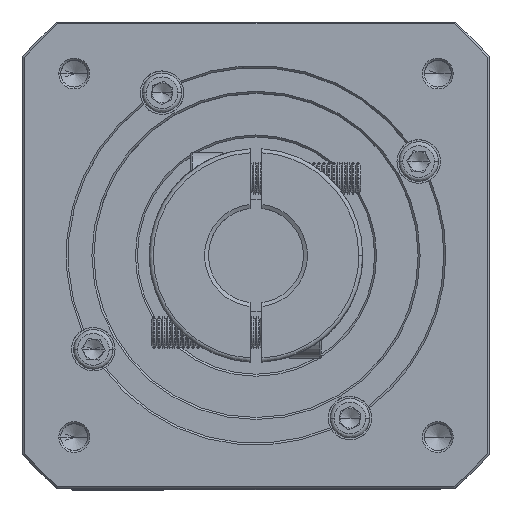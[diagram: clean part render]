
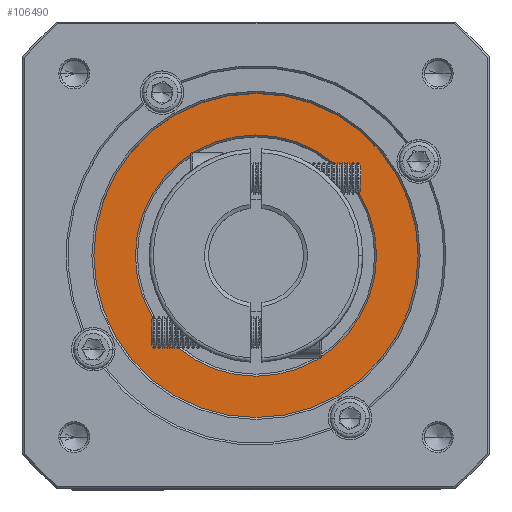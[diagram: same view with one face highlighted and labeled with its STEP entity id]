
A CAD part, top view. The second image highlights one B-rep face of the part: STEP entity #106490.
In plain terms, the highlighted planar face has unit normal (0, 0, 1).
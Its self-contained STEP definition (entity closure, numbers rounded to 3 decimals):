
#1484 = CARTESIAN_POINT ( 'NONE',  ( 74.211, 101.778, -2.67 ) ) ;
#1673 = AXIS2_PLACEMENT_3D ( 'NONE', #55335, #80173, #20890 ) ;
#7366 = CIRCLE ( 'NONE', #93252, 30.5 ) ;
#10586 = CARTESIAN_POINT ( 'NONE',  ( 115.211, 101.778, -2.67 ) ) ;
#12377 = VERTEX_POINT ( 'NONE', #53167 ) ;
#20890 = DIRECTION ( 'NONE',  ( 1., 0., 0. ) ) ;
#20971 = CARTESIAN_POINT ( 'NONE',  ( 74.211, 71.278, -2.67 ) ) ;
#21512 = DIRECTION ( 'NONE',  ( 0., 0., -1. ) ) ;
#23271 = DIRECTION ( 'NONE',  ( 1., 0., 0. ) ) ;
#25752 = FACE_OUTER_BOUND ( 'NONE', #100547, .T. ) ;
#29116 = EDGE_LOOP ( 'NONE', ( #45945, #42750 ) ) ;
#29431 = PLANE ( 'NONE',  #1673 ) ;
#29685 = CARTESIAN_POINT ( 'NONE',  ( 74.211, 101.778, -2.67 ) ) ;
#31766 = VERTEX_POINT ( 'NONE', #10586 ) ;
#32268 = EDGE_CURVE ( 'NONE', #81811, #109759, #77973, .T. ) ;
#34169 = DIRECTION ( 'NONE',  ( 1., 0., 0. ) ) ;
#35669 = EDGE_CURVE ( 'NONE', #12377, #31766, #99640, .T. ) ;
#39946 = CARTESIAN_POINT ( 'NONE',  ( 74.211, 101.778, -2.67 ) ) ;
#42750 = ORIENTED_EDGE ( 'NONE', *, *, #94706, .T. ) ;
#44078 = CARTESIAN_POINT ( 'NONE',  ( 74.211, 132.278, -2.67 ) ) ;
#45945 = ORIENTED_EDGE ( 'NONE', *, *, #32268, .T. ) ;
#53167 = CARTESIAN_POINT ( 'NONE',  ( 33.211, 101.778, -2.67 ) ) ;
#55335 = CARTESIAN_POINT ( 'NONE',  ( 74.211, 101.778, -2.67 ) ) ;
#57592 = AXIS2_PLACEMENT_3D ( 'NONE', #1484, #85289, #34169 ) ;
#58077 = ORIENTED_EDGE ( 'NONE', *, *, #66140, .T. ) ;
#65508 = DIRECTION ( 'NONE',  ( 0., 0., 1. ) ) ;
#66140 = EDGE_CURVE ( 'NONE', #31766, #12377, #69941, .T. ) ;
#69941 = CIRCLE ( 'NONE', #57592, 41. ) ;
#76460 = ORIENTED_EDGE ( 'NONE', *, *, #35669, .T. ) ;
#77973 = CIRCLE ( 'NONE', #109141, 30.5 ) ;
#80173 = DIRECTION ( 'NONE',  ( 0., 0., 1. ) ) ;
#80781 = DIRECTION ( 'NONE',  ( 0., -1., 0. ) ) ;
#81811 = VERTEX_POINT ( 'NONE', #20971 ) ;
#82551 = AXIS2_PLACEMENT_3D ( 'NONE', #39946, #65508, #23271 ) ;
#83618 = CARTESIAN_POINT ( 'NONE',  ( 74.211, 101.778, -2.67 ) ) ;
#85289 = DIRECTION ( 'NONE',  ( 0., 0., 1. ) ) ;
#86807 = FACE_BOUND ( 'NONE', #29116, .T. ) ;
#91025 = DIRECTION ( 'NONE',  ( 0., -1., 0. ) ) ;
#93252 = AXIS2_PLACEMENT_3D ( 'NONE', #83618, #108443, #91025 ) ;
#94706 = EDGE_CURVE ( 'NONE', #109759, #81811, #7366, .T. ) ;
#99640 = CIRCLE ( 'NONE', #82551, 41. ) ;
#100547 = EDGE_LOOP ( 'NONE', ( #58077, #76460 ) ) ;
#106490 = ADVANCED_FACE ( 'NONE', ( #25752, #86807 ), #29431, .T. ) ;
#108443 = DIRECTION ( 'NONE',  ( 0., 0., -1. ) ) ;
#109141 = AXIS2_PLACEMENT_3D ( 'NONE', #29685, #21512, #80781 ) ;
#109759 = VERTEX_POINT ( 'NONE', #44078 ) ;
